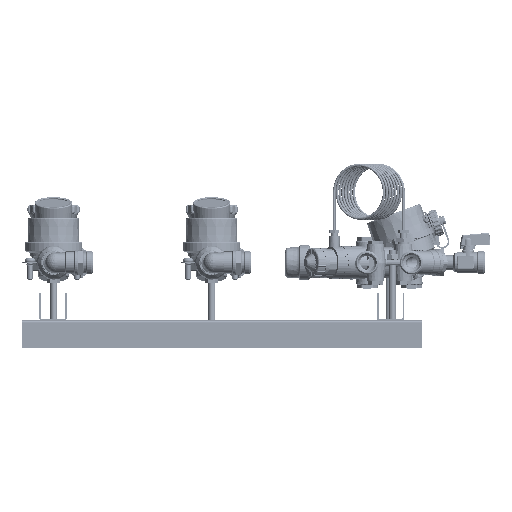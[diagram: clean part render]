
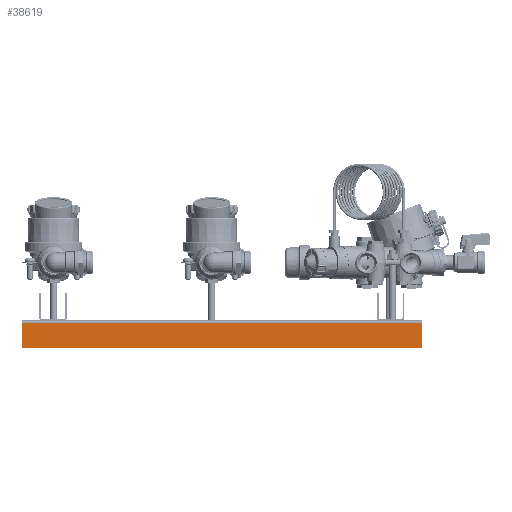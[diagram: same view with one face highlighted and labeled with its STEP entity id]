
A CAD part, front view. The second image highlights one B-rep face of the part: STEP entity #38619.
In plain terms, the highlighted planar face has unit normal (0, -1, 0) as drawn and (1, 0, 0) by its records, which use the part's own axes.
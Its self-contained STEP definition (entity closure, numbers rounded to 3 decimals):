
#38619=ADVANCED_FACE('',(#214794),#214796,.T.);
#214794=FACE_BOUND('',#214795,.T.);
#214795=EDGE_LOOP('',(#315238,#315239,#315240,#315241));
#214796=PLANE('',#214797);
#214797=AXIS2_PLACEMENT_3D('',#214798,#214799,#214800);
#214798=CARTESIAN_POINT('',(15.5,-450.,-2.5));
#214799=DIRECTION('',(1.,0.,0.));
#214800=DIRECTION('',(0.,0.,-1.));
#315238=ORIENTED_EDGE('',*,*,#365999,.T.);
#315239=ORIENTED_EDGE('',*,*,#366027,.T.);
#315240=ORIENTED_EDGE('',*,*,#366017,.F.);
#315241=ORIENTED_EDGE('',*,*,#366024,.F.);
#365999=EDGE_CURVE('',#430431,#430428,#430432,.T.);
#366017=EDGE_CURVE('',#430460,#430462,#430463,.T.);
#366024=EDGE_CURVE('',#430431,#430460,#430470,.T.);
#366027=EDGE_CURVE('',#430428,#430462,#430473,.T.);
#430428=VERTEX_POINT('',#716541);
#430431=VERTEX_POINT('',#716546);
#430432=LINE('',#716547,#716548);
#430460=VERTEX_POINT('',#716616);
#430462=VERTEX_POINT('',#716621);
#430463=LINE('',#716622,#716623);
#430470=LINE('',#716643,#716644);
#430473=LINE('',#716652,#716653);
#716541=CARTESIAN_POINT('',(15.5,-450.,-31.2));
#716546=CARTESIAN_POINT('',(15.5,-450.,-2.5));
#716547=CARTESIAN_POINT('',(15.5,-450.,-2.5));
#716548=VECTOR('',#716549,1.);
#716549=DIRECTION('',(0.,0.,-1.));
#716616=CARTESIAN_POINT('',(15.5,0.,-2.5));
#716621=CARTESIAN_POINT('',(15.5,0.,-31.2));
#716622=CARTESIAN_POINT('',(15.5,0.,-2.5));
#716623=VECTOR('',#716624,1.);
#716624=DIRECTION('',(0.,0.,-1.));
#716643=CARTESIAN_POINT('',(15.5,-450.,-2.5));
#716644=VECTOR('',#716645,1.);
#716645=DIRECTION('',(0.,1.,0.));
#716652=CARTESIAN_POINT('',(15.5,-450.,-31.2));
#716653=VECTOR('',#716654,1.);
#716654=DIRECTION('',(0.,1.,0.));
